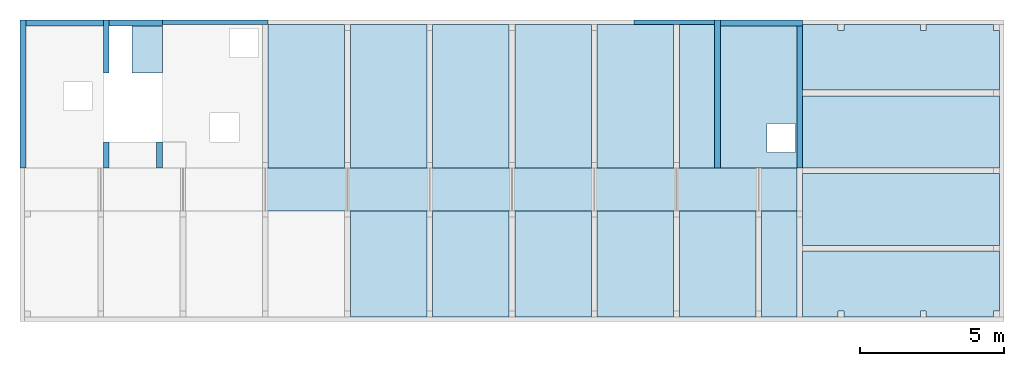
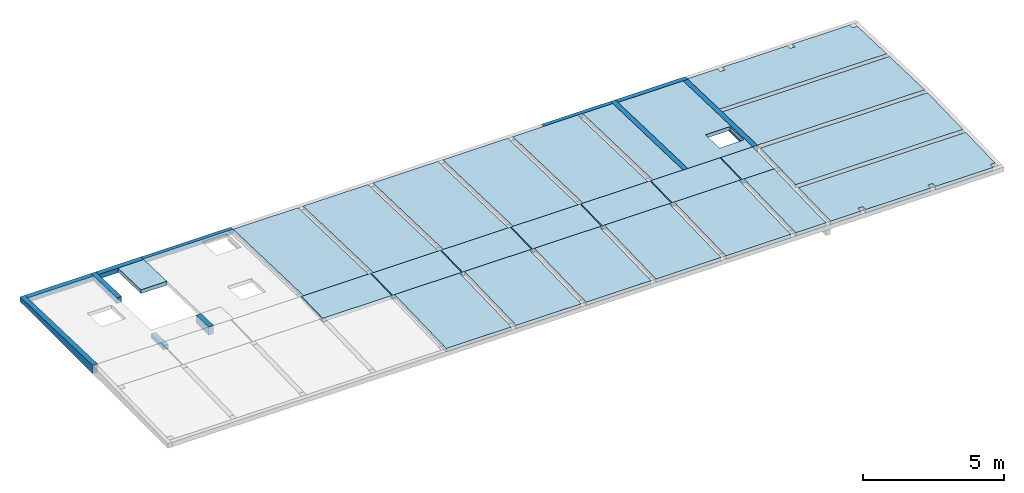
# One storey, part 3 of 5: 25 slabs, 10 walls, 1 opening.
"""IFC4 building model written with IfcOpenShell, lengths in metres."""

from ifc_helpers import new_model, entity, si_unit, converted_unit, derived_unit, frame, frame_2d, origin, origin_with_axes, origin_2d_with_axis, place, context, subcontext, project, spatial, polyline, rectangle, outline, extrude, clip, halfspace, bounded_halfspace, material, element, save


model = new_model("IFC4")

# Units and contexts
model_context = context("Model", 3, precision=1e-05, world=origin())
plan_context = context("Plan", 2, precision=1e-05, world=origin())
body_context = subcontext(model_context, "Body", "Model", "MODEL_VIEW")
ifc_project = project(units=[si_unit("LENGTHUNIT", "METRE"), si_unit("AREAUNIT", "SQUARE_METRE"), si_unit("VOLUMEUNIT", "CUBIC_METRE"), si_unit("MASSUNIT", "GRAM", prefix="KILO"), converted_unit("PLANEANGLEUNIT", "DEGREE", entity("IfcPlaneAngleMeasure", 0.0174532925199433), si_unit("PLANEANGLEUNIT", "RADIAN"), dimensions=[0, 0, 0, 0, 0, 0, 0]), derived_unit("THERMALTRANSMITTANCEUNIT", [(si_unit("POWERUNIT", "WATT"), 1), (si_unit("THERMODYNAMICTEMPERATUREUNIT", "KELVIN"), -1), (si_unit("LENGTHUNIT", "METRE"), -2)]), derived_unit("VOLUMETRICFLOWRATEUNIT", [(si_unit("LENGTHUNIT", "METRE"), 3), (converted_unit("TIMEUNIT", "hour", entity("IfcTimeMeasure", 3600.0), si_unit("TIMEUNIT", "SECOND"), dimensions=[0, 0, 1, 0, 0, 0, 0]), -1), (si_unit("LENGTHUNIT", "METRE"), -1)])], contexts=[model_context, plan_context])

# Site, building, storey
site_placement = place(None, origin())
site = spatial("IfcSite", under=ifc_project, at=site_placement, Name="Site", CompositionType="ELEMENT")
building_placement = place(site_placement, origin())
building = spatial("IfcBuilding", under=site, at=building_placement, Name="Admin", CompositionType="ELEMENT")
storey_placement = place(building_placement, frame((0.0, 0.0, 9.64)))
storey = spatial("IfcBuildingStorey", under=building, at=storey_placement, Name="03-Toiture", CompositionType="ELEMENT", Elevation=9.64)

# Slabs
ifc_material_1 = material(Name="CLT")
slab_1_placement = place(storey_placement, frame((46.8498006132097, 15.699449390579, -0.00897978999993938)))
element("IfcSlab", 1, at=slab_1_placement, inside=storey, material=ifc_material_1, Name="CLT ép. 16 cm", PredefinedType="FLOOR", context=body_context, shape_type="SweptSolid", body=[
    extrude(rectangle(XDim=1.20419660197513e-05, YDim=2.8199999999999, at=frame_2d((0.0, -1.81898940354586e-15), x_axis=(0.0, 1.0))), frame((1.40999999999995, 1.49999398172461, 0.0434799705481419), z_axis=(0.0, 0.0299865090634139, 0.999550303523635), x_axis=(1.0, 0.0, 0.0)), (0.0, -0.0299865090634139, 0.999550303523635), 0.16),
    extrude(rectangle(XDim=2.8199999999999, YDim=1.50061801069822, at=frame_2d((0.0, 9.09494701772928e-16), x_axis=(-1.0, 0.0))), frame((1.40999999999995, 0.749993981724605, 0.0217400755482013), z_axis=(0.0, -0.028974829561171, 0.999580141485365), x_axis=(-1.0, 0.0, 0.0)), (0.0, -0.028974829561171, 0.999580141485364), 0.16),
])
ifc_material_2 = material(Name="CLT")
slab_2_placement = place(storey_placement, frame((49.7098006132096, 15.699449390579, -0.0089797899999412)))
element("IfcSlab", 2, at=slab_2_placement, inside=storey, material=ifc_material_2, Name="CLT ép. 16 cm", PredefinedType="FLOOR", context=body_context, shape_type="SweptSolid", body=[
    extrude(rectangle(XDim=1.3100004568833, YDim=1.20419660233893e-05, at=frame_2d((0.0, -3.63797880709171e-15), x_axis=(-1.0, 0.0))), frame((0.655000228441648, 1.49999398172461, 0.0434799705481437), z_axis=(0.0, 0.0299865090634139, 0.999550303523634), x_axis=(1.0, 0.0, 0.0)), (0.0, -0.0299865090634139, 0.999550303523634), 0.16),
    extrude(rectangle(XDim=1.3100004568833, YDim=1.50061801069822, at=frame_2d((-7.27595761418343e-15, 9.09494701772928e-16), x_axis=(-1.0, 0.0))), frame((0.655000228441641, 0.749993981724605, 0.0217400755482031), z_axis=(0.0, -0.028974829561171, 0.999580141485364), x_axis=(-1.0, 0.0, 0.0)), (0.0, -0.028974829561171, 0.999580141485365), 0.16),
])
ifc_material_3 = material(Name="CLT")
slab_3_placement = place(storey_placement, frame((41.1298006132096, 15.699449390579, -0.00897978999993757)))
element("IfcSlab", 3, at=slab_3_placement, inside=storey, material=ifc_material_3, Name="CLT ép. 16 cm", PredefinedType="FLOOR", context=body_context, shape_type="SweptSolid", body=[
    extrude(rectangle(XDim=1.20419660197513e-05, YDim=2.82, at=frame_2d((0.0, -1.81898940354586e-15), x_axis=(0.0, 1.0))), frame((1.41, 1.49999398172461, 0.04347997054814), z_axis=(0.0, 0.0299865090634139, 0.999550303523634), x_axis=(1.0, 0.0, 0.0)), (0.0, -0.0299865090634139, 0.999550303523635), 0.16),
    extrude(rectangle(XDim=2.82, YDim=1.50061801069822, at=frame_2d((0.0, 9.09494701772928e-16), x_axis=(-1.0, 0.0))), frame((1.41, 0.749993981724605, 0.0217400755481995), z_axis=(0.0, -0.028974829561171, 0.999580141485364), x_axis=(-1.0, 0.0, 0.0)), (0.0, -0.028974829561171, 0.999580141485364), 0.16),
])
ifc_material_4 = material(Name="CLT")
slab_4_placement = place(storey_placement, frame((43.9898006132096, 15.699449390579, -0.0089797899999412)))
element("IfcSlab", 4, at=slab_4_placement, inside=storey, material=ifc_material_4, Name="CLT ép. 16 cm", PredefinedType="FLOOR", context=body_context, shape_type="SweptSolid", body=[
    extrude(rectangle(XDim=1.20419660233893e-05, YDim=2.82000000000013, at=frame_2d((-7.27595761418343e-15, -3.63797880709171e-15), x_axis=(0.0, 1.0))), frame((1.41000000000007, 1.49999398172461, 0.0434799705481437), z_axis=(0.0, 0.0299865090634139, 0.999550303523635), x_axis=(1.0, 0.0, 0.0)), (0.0, -0.0299865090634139, 0.999550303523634), 0.16),
    extrude(rectangle(XDim=2.82000000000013, YDim=1.50061801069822, at=frame_2d((7.27595761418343e-15, 9.09494701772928e-16), x_axis=(-1.0, 0.0))), frame((1.41000000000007, 0.749993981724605, 0.0217400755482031), z_axis=(0.0, -0.028974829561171, 0.999580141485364), x_axis=(-1.0, 0.0, 0.0)), (0.0, -0.028974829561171, 0.999580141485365), 0.16),
])
ifc_material_5 = material(Name="CLT")
slab_5_placement = place(storey_placement, frame((46.9298006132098, 17.199449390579, -0.115200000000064), z_axis=(0.0, 0.0299865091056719, 0.999550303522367), x_axis=(1.0, 0.0, 0.0)))
element("IfcSlab", 5, at=slab_5_placement, inside=storey, material=ifc_material_5, Name="CLT ép. 16 cm", PredefinedType="FLOOR", context=body_context, shape_type="SweptSolid", body=[
    extrude(rectangle(XDim=4.99224499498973, YDim=1.23000045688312, at=frame_2d((0.0, 0.0), x_axis=(0.0, -1.0))), frame((0.61500022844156, 2.49163351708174, 0.149632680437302), z_axis=(0.0, 0.0, 1.0), x_axis=(1.0, 0.0, 0.0)), (0.0, -0.0299865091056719, 0.999550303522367), 0.16),
])
ifc_material_6 = material(Name="CLT")
slab_6_placement = place(storey_placement, frame((49.7898006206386, 12.029449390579, -0.115362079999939), z_axis=(0.0, -0.0289748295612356, 0.999580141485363), x_axis=(-1.0, 0.0, 0.0)))
element("IfcSlab", 6, at=slab_6_placement, inside=storey, material=ifc_material_6, Name="CLT ép. 16 cm", PredefinedType="FLOOR", context=body_context, shape_type="SweptSolid", body=[
    extrude(rectangle(XDim=3.67154152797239, YDim=1.23000045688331, at=frame_2d((0.0, 9.09494701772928e-16), x_axis=(1.20392318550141e-07, -0.999999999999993))), frame((-0.615000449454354, -1.83577076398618, -1.36424205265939e-15), z_axis=(0.0, 0.0, 1.0), x_axis=(1.0, 0.0, 0.0)), (0.0, -0.0289748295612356, 0.999580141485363), 0.16),
])
ifc_material_7 = material(Name="CLT")
slab_7_placement = place(storey_placement, frame((38.2698006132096, 15.699449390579, -0.0089797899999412)))
element("IfcSlab", 7, at=slab_7_placement, inside=storey, material=ifc_material_7, Name="CLT ép. 16 cm", PredefinedType="FLOOR", context=body_context, shape_type="SweptSolid", body=[
    extrude(rectangle(XDim=1.20419660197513e-05, YDim=2.81999999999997, at=frame_2d((0.0, -1.81898940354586e-15), x_axis=(0.0, 1.0))), frame((1.40999999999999, 1.49999398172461, 0.0434799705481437), z_axis=(0.0, 0.0299865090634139, 0.999550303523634), x_axis=(1.0, 0.0, 0.0)), (0.0, -0.0299865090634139, 0.999550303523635), 0.16),
    extrude(rectangle(XDim=2.81999999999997, YDim=1.50061801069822, at=frame_2d((0.0, 9.09494701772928e-16), x_axis=(-1.0, 0.0))), frame((1.40999999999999, 0.749993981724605, 0.0217400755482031), z_axis=(0.0, -0.028974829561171, 0.999580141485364), x_axis=(-1.0, 0.0, 0.0)), (0.0, -0.028974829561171, 0.999580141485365), 0.16),
])
ifc_material_8 = material(Name="CLT")
slab_8_placement = place(storey_placement, frame((32.5498006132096, 15.699449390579, -0.0089797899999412)))
element("IfcSlab", 8, at=slab_8_placement, inside=storey, material=ifc_material_8, Name="CLT ép. 16 cm", PredefinedType="FLOOR", context=body_context, shape_type="SweptSolid", body=[
    extrude(rectangle(XDim=1.20419660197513e-05, YDim=2.82000000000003, at=frame_2d((0.0, -1.81898940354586e-15), x_axis=(0.0, 1.0))), frame((1.41000000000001, 1.49999398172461, 0.0434799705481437), z_axis=(0.0, 0.0299865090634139, 0.999550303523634), x_axis=(1.0, 0.0, 0.0)), (0.0, -0.0299865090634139, 0.999550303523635), 0.16),
    extrude(rectangle(XDim=2.82000000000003, YDim=1.50061801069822, at=frame_2d((0.0, 9.09494701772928e-16), x_axis=(-1.0, 0.0))), frame((1.41000000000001, 0.749993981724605, 0.0217400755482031), z_axis=(0.0, -0.028974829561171, 0.999580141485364), x_axis=(-1.0, 0.0, 0.0)), (0.0, -0.028974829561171, 0.999580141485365), 0.16),
])
ifc_material_9 = material(Name="CLT")
slab_9_placement = place(storey_placement, frame((35.4098006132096, 15.699449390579, -0.0089797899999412)))
element("IfcSlab", 9, at=slab_9_placement, inside=storey, material=ifc_material_9, Name="CLT ép. 16 cm", PredefinedType="FLOOR", context=body_context, shape_type="SweptSolid", body=[
    extrude(rectangle(XDim=1.20419660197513e-05, YDim=2.82000000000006, at=frame_2d((0.0, -1.81898940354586e-15), x_axis=(0.0, 1.0))), frame((1.41000000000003, 1.49999398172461, 0.0434799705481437), z_axis=(0.0, 0.0299865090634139, 0.999550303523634), x_axis=(1.0, 0.0, 0.0)), (0.0, -0.0299865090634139, 0.999550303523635), 0.16),
    extrude(rectangle(XDim=2.82000000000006, YDim=1.50061801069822, at=frame_2d((0.0, -1.81898940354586e-15), x_axis=(-1.0, 0.0))), frame((1.41000000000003, 0.749993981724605, 0.0217400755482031), z_axis=(0.0, -0.028974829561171, 0.999580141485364), x_axis=(-1.0, 0.0, 0.0)), (0.0, -0.028974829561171, 0.999580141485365), 0.16),
])
ifc_material_10 = material(Name="CLT")
slab_10_placement = place(storey_placement, frame((32.6298006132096, 17.199449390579, -0.115200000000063), z_axis=(0.0, 0.0299865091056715, 0.999550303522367), x_axis=(1.0, 0.0, 0.0)))
element("IfcSlab", 10, at=slab_10_placement, inside=storey, material=ifc_material_10, Name="CLT ép. 16 cm", PredefinedType="FLOOR", context=body_context, shape_type="SweptSolid", body=[
    extrude(rectangle(XDim=2.65999999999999, YDim=4.99224499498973, at=frame_2d((0.0, 0.0), x_axis=(-1.0, 0.0))), frame((1.32999999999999, 2.49163351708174, 0.149632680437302), z_axis=(0.0, 0.0, 1.0), x_axis=(1.0, 0.0, 0.0)), (0.0, -0.0299865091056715, 0.999550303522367), 0.16),
])
ifc_material_11 = material(Name="CLT")
slab_11_placement = place(storey_placement, frame((35.4898006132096, 17.199449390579, -0.115200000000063), z_axis=(3.41830032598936e-16, 0.0299865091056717, 0.999550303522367), x_axis=(1.0, -1.13994607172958e-14, 0.0)))
element("IfcSlab", 11, at=slab_11_placement, inside=storey, material=ifc_material_11, Name="CLT ép. 16 cm", PredefinedType="FLOOR", context=body_context, shape_type="SweptSolid", body=[
    extrude(rectangle(XDim=2.65999999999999, YDim=4.99224499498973, at=frame_2d((7.27595761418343e-15, -1.81898940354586e-15), x_axis=(-1.0, -1.09412896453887e-14))), frame((1.32999999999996, 2.49163351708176, 0.149632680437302), z_axis=(-4.93038065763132e-32, 0.0, 1.0), x_axis=(1.0, 0.0, -4.93038065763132e-32)), (0.0, -0.0299865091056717, 0.999550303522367), 0.16),
])
ifc_material_12 = material(Name="CLT")
slab_12_placement = place(storey_placement, frame((38.3498006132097, 17.199449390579, -0.115200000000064), z_axis=(0.0, 0.0299865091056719, 0.999550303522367), x_axis=(1.0, 0.0, 0.0)))
element("IfcSlab", 12, at=slab_12_placement, inside=storey, material=ifc_material_12, Name="CLT ép. 16 cm", PredefinedType="FLOOR", context=body_context, shape_type="SweptSolid", body=[
    extrude(rectangle(XDim=2.65999999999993, YDim=4.99224499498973, at=frame_2d((0.0, 0.0), x_axis=(-1.0, 0.0))), frame((1.32999999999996, 2.49163351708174, 0.149632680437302), z_axis=(0.0, 0.0, 1.0), x_axis=(1.0, 0.0, 0.0)), (0.0, -0.0299865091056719, 0.999550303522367), 0.16),
])
ifc_material_13 = material(Name="CLT")
slab_13_placement = place(storey_placement, frame((41.2098006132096, 12.029449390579, -0.115362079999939), z_axis=(0.0, -0.0289748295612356, 0.999580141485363), x_axis=(-1.0, 0.0, 0.0)))
element("IfcSlab", 13, at=slab_13_placement, inside=storey, material=ifc_material_13, Name="CLT ép. 16 cm", PredefinedType="FLOOR", context=body_context, shape_type="SweptSolid", body=[
    extrude(rectangle(XDim=3.67154152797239, YDim=2.65999999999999, at=frame_2d((-7.27595761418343e-15, 9.09494701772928e-16), x_axis=(-1.24439120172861e-07, 0.999999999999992))), frame((-1.33000022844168, -1.83577076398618, -1.30739863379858e-15), z_axis=(0.0, 0.0, 1.0), x_axis=(1.0, 0.0, 0.0)), (0.0, -0.0289748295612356, 0.999580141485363), 0.16),
])
ifc_material_14 = material(Name="CLT")
slab_14_placement = place(storey_placement, frame((38.3498006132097, 12.029449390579, -0.115362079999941), z_axis=(0.0, -0.0289748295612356, 0.999580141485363), x_axis=(-1.0, 0.0, 0.0)))
element("IfcSlab", 14, at=slab_14_placement, inside=storey, material=ifc_material_14, Name="CLT ép. 16 cm", PredefinedType="FLOOR", context=body_context, shape_type="SweptSolid", body=[
    extrude(rectangle(XDim=3.67154152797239, YDim=2.65999999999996, at=frame_2d((0.0, 9.09494701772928e-16), x_axis=(-1.24439120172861e-07, 0.999999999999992))), frame((-1.33000022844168, -1.83577076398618, 5.11590769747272e-16), z_axis=(0.0, 0.0, 1.0), x_axis=(1.0, 0.0, 0.0)), (0.0, -0.0289748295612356, 0.999580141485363), 0.16),
])
ifc_material_15 = material(Name="CLT")
slab_15_placement = place(storey_placement, frame((44.0698006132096, 12.029449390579, -0.115362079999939), z_axis=(0.0, -0.0289748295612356, 0.999580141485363), x_axis=(-1.0, 0.0, 0.0)))
element("IfcSlab", 15, at=slab_15_placement, inside=storey, material=ifc_material_15, Name="CLT ép. 16 cm", PredefinedType="FLOOR", context=body_context, shape_type="SweptSolid", body=[
    extrude(rectangle(XDim=3.67154152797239, YDim=2.66000000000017, at=frame_2d((0.0, 9.09494701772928e-16), x_axis=(-1.24439120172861e-07, 0.999999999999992))), frame((-1.33000022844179, -1.83577076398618, -1.36424205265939e-15), z_axis=(0.0, 0.0, 1.0), x_axis=(1.0, 0.0, 0.0)), (0.0, -0.0289748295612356, 0.999580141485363), 0.16),
])
ifc_material_16 = material(Name="CLT")
slab_16_placement = place(storey_placement, frame((46.9298006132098, 12.029449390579, -0.115362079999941), z_axis=(0.0, -0.0289748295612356, 0.999580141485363), x_axis=(-1.0, 0.0, 0.0)))
element("IfcSlab", 16, at=slab_16_placement, inside=storey, material=ifc_material_16, Name="CLT ép. 16 cm", PredefinedType="FLOOR", context=body_context, shape_type="SweptSolid", body=[
    extrude(rectangle(XDim=3.67154152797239, YDim=2.65999999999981, at=frame_2d((0.0, 9.09494701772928e-16), x_axis=(-1.24439120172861e-07, 0.999999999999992))), frame((-1.3300002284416, -1.83577076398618, 5.11590769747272e-16), z_axis=(0.0, 0.0, 1.0), x_axis=(1.0, 0.0, 0.0)), (0.0, -0.0289748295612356, 0.999580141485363), 0.16),
])
ifc_material_17 = material(Name="CLT")
slab_17_placement = place(storey_placement, frame((35.4898006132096, 12.029449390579, -0.115362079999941), z_axis=(0.0, -0.0289748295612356, 0.999580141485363), x_axis=(-1.0, 0.0, 0.0)))
element("IfcSlab", 17, at=slab_17_placement, inside=storey, material=ifc_material_17, Name="CLT ép. 16 cm", PredefinedType="FLOOR", context=body_context, shape_type="SweptSolid", body=[
    extrude(rectangle(XDim=3.67154152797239, YDim=2.66000000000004, at=frame_2d((-7.27595761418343e-15, 9.09494701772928e-16), x_axis=(-1.24439120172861e-07, 0.999999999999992))), frame((-1.33000022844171, -1.83577076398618, 4.54747350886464e-16), z_axis=(0.0, 0.0, 1.0), x_axis=(1.0, 0.0, 0.0)), (0.0, -0.0289748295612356, 0.999580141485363), 0.16),
])
ifc_material_18 = material(Name="CLT")
slab_18_placement = place(storey_placement, frame((44.0698006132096, 17.199449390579, -0.115200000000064), z_axis=(0.0, 0.0299865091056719, 0.999550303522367), x_axis=(1.0, 0.0, 0.0)))
element("IfcSlab", 18, at=slab_18_placement, inside=storey, material=ifc_material_18, Name="CLT ép. 16 cm", PredefinedType="FLOOR", context=body_context, shape_type="SweptSolid", body=[
    extrude(rectangle(XDim=2.66000000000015, YDim=4.99224499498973, at=frame_2d((0.0, 0.0), x_axis=(-1.0, 0.0))), frame((1.33000000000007, 2.49163351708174, 0.149632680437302), z_axis=(0.0, 0.0, 1.0), x_axis=(1.0, 0.0, 0.0)), (0.0, -0.0299865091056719, 0.999550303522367), 0.16),
])
ifc_material_19 = material(Name="CLT")
slab_19_placement = place(storey_placement, frame((41.2098006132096, 17.199449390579, -0.115200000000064), z_axis=(0.0, 0.0299865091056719, 0.999550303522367), x_axis=(1.0, 0.0, 0.0)))
element("IfcSlab", 19, at=slab_19_placement, inside=storey, material=ifc_material_19, Name="CLT ép. 16 cm", PredefinedType="FLOOR", context=body_context, shape_type="SweptSolid", body=[
    extrude(rectangle(XDim=2.65999999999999, YDim=4.99224499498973, at=frame_2d((7.27595761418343e-15, 0.0), x_axis=(-1.0, 0.0))), frame((1.32999999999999, 2.49163351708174, 0.149632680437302), z_axis=(0.0, 0.0, 1.0), x_axis=(1.0, 0.0, 0.0)), (0.0, -0.0299865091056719, 0.999550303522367), 0.16),
])
ifc_material_20 = material(Name="CLT")
slab_20_placement = place(storey_placement, frame((51.2198015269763, 14.509449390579, -0.0434743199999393), z_axis=(0.0, -0.028974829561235, 0.999580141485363), x_axis=(-1.0, 0.0, 0.0)))
element("IfcSlab", 20, at=slab_20_placement, inside=storey, material=ifc_material_20, Name="CLT ép. 16 cm", PredefinedType="FLOOR", context=body_context, shape_type="SweptSolid", body=[
    extrude(rectangle(XDim=6.83999908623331, YDim=2.50105008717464, at=frame_2d((-7.27595761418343e-15, 0.0), x_axis=(1.0, 0.0))), frame((-3.41999954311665, -1.25052504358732, -2.33058017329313e-15), z_axis=(0.0, 0.0, 1.0), x_axis=(1.0, 0.0, 0.0)), (0.0, -0.028974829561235, 0.999580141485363), 0.16),
])
ifc_material_21 = material(Name="CLT")
slab_21_placement = place(storey_placement, frame((51.2198015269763, 12.029449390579, -0.115362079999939), z_axis=(-1.01664317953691e-16, -0.0289748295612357, 0.999580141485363), x_axis=(-1.0, 3.50871150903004e-15, 0.0)))
element("IfcSlab", 21, at=slab_21_placement, inside=storey, material=ifc_material_21, Name="CLT ép. 16 cm", PredefinedType="FLOOR", context=body_context, shape_type="SweptSolid", body=[
    extrude(outline(polyline([(3.50285635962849, -1.86935629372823), (3.50285635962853, 0.411601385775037), (2.27285727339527, 0.411601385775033), (2.27285727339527, 0.211517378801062), (2.07285727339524, 0.21151737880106), (2.07285727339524, 0.411601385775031), (-0.587142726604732, 0.411601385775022), (-0.587142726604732, 0.211517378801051), (-0.787142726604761, 0.211517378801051), (-0.787142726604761, 0.411601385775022), (-3.13714272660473, 0.411601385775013), (-3.13714272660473, 0.211517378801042), (-3.33714272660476, 0.211517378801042), (-3.33714272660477, -1.86935629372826), (3.50285635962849, -1.86935629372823)])), frame((-3.50285635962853, -0.411601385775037, 8.5265128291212e-16), z_axis=(0.0, 0.0, 1.0), x_axis=(1.0, 0.0, 0.0)), (0.0, -0.0289748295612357, 0.999580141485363), 0.16),
])
ifc_material_22 = material(Name="CLT")
slab_22_placement = place(storey_placement, frame((51.2198010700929, 19.909449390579, -0.115200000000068), z_axis=(8.92856191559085e-18, 0.0299865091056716, 0.999550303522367), x_axis=(1.0, -2.97752628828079e-16, 0.0)))
element("IfcSlab", 22, at=slab_22_placement, inside=storey, material=ifc_material_22, Name="CLT ép. 16 cm", PredefinedType="FLOOR", context=body_context, shape_type="SweptSolid", body=[
    extrude(outline(polyline([(-3.50285609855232, -1.86941209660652), (3.33714298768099, -1.86941209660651), (3.33714253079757, 0.211523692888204), (3.13714253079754, 0.211523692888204), (3.13714253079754, 0.411613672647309), (0.787142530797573, 0.411613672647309), (0.787142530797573, 0.211523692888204), (0.587142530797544, 0.211523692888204), (0.587142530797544, 0.411613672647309), (-2.072857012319, 0.411613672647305), (-2.072857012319, 0.2115236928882), (-2.27285701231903, 0.2115236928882), (-2.27285701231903, 0.411613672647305), (-3.50285655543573, 0.411613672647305), (-3.50285609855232, -1.86941209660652)])), frame((3.50285655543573, 1.86736101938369, 0.0683692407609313), z_axis=(-1.54074395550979e-33, 0.0, 1.0), x_axis=(1.0, 0.0, -1.54074395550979e-33)), (0.0, -0.0299865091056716, 0.999550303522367), 0.16),
])
ifc_material_23 = material(Name="CLT")
slab_23_placement = place(storey_placement, frame((51.2198015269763, 17.209449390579, -0.0408000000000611), z_axis=(0.0, 0.0299865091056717, 0.999550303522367), x_axis=(1.0, 0.0, 0.0)))
element("IfcSlab", 23, at=slab_23_placement, inside=storey, material=ifc_material_23, Name="CLT ép. 16 cm", PredefinedType="FLOOR", context=body_context, shape_type="SweptSolid", body=[
    extrude(rectangle(XDim=2.50112474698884, YDim=6.83999908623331, at=frame_2d((7.27595761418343e-15, 0.0), x_axis=(0.0, -1.0))), frame((3.41999954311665, 1.2483133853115, 0.074966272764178), z_axis=(0.0, 0.0, 1.0), x_axis=(1.0, 0.0, 0.0)), (0.0, -0.0299865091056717, 0.999550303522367), 0.16),
])

# Slab, opening
ifc_material_24 = material(Name="C30/37")
slab_24_placement = place(storey_placement, frame((48.35980059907, 17.199449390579, -0.114000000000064), z_axis=(0.0, 0.0299865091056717, 0.999550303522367), x_axis=(1.0, 0.0, 0.0)))
slab_24 = element("IfcSlab", 24, at=slab_24_placement, inside=storey, material=ifc_material_24, Name="Dalle BA R+2", PredefinedType="FLOOR", context=body_context, shape_type="SweptSolid", body=[
    extrude(rectangle(XDim=2.65999999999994, YDim=4.95222699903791, at=frame_2d((1.45519152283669e-14, -1.81898940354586e-15), x_axis=(1.0, 0.0))), frame((1.33000000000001, 2.47166050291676, 0.148433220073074), z_axis=(0.0, 0.0, 1.0), x_axis=(1.0, 0.0, 0.0)), (0.0, -0.0299865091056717, 0.999550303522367), 0.16),
])
opening_placement = place(slab_24_placement, frame((1.61, 0.546694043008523, 0.118446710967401)))
element("IfcOpeningElement", 25, at=opening_placement, cuts=slab_24, Name="Trémie dans dalle", ObjectType="Opening", context=body_context, shape_type="SweptSolid", body=[
    extrude(rectangle(XDim=1.0, YDim=1.00044989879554, at=origin_2d_with_axis()), frame((0.5, 0.499325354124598, 0.0299865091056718), z_axis=(0.0, -7.3899220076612e-16, 1.0), x_axis=(1.0, 0.0, 0.0)), (0.0, -0.029986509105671, 0.999550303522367), 0.16),
])

# Slab
ifc_material_25 = material(Name="C30/37")
slab_25_placement = place(storey_placement, frame((27.8901090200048, 20.5094421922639, -0.114000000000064), z_axis=(8.93843733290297e-16, 0.0299865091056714, 0.999550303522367), x_axis=(1.0, -2.98081957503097e-14, 0.0)))
element("IfcSlab", 26, at=slab_25_placement, inside=storey, material=ifc_material_25, Name="Dalle BA R+2", PredefinedType="FLOOR", context=body_context, shape_type="SweptSolid", body=[
    extrude(rectangle(XDim=1.05972053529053, YDim=1.64073783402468, at=frame_2d((0.0, -1.81898940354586e-15), x_axis=(-0.999999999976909, 6.79571014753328e-06))), frame((0.529860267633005, 0.818897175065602, 0.0491780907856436), z_axis=(0.0, 0.0, 1.0), x_axis=(1.0, 0.0, 0.0)), (0.0, -0.0299865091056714, 0.999550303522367), 0.160000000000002),
])

# Walls
ifc_material_26 = material(Name="CLT")
wall_1_placement = place(storey_placement, frame((48.1598010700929, 22.349449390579, -0.16), z_axis=(0.0, 0.0, 1.0), x_axis=(-1.0, 0.0, 0.0)))
element("IfcWall", 27, at=wall_1_placement, inside=storey, material=ifc_material_26, Name="Panneau CLT R+2", context=body_context, shape_type="Clipping", body=[
    clip(extrude(rectangle(XDim=2.80999999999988, YDim=0.16, at=frame_2d((1.40499999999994, 0.08), x_axis=(1.0, 0.0))), origin_with_axes(), (0.0, 0.0, 1.0), 0.204799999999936), halfspace(frame((1.40499999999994, 0.08, 0.202399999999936), z_axis=(0.0, 0.0299865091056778, -0.999550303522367), x_axis=(0.0, -0.999550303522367, -0.0299865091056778)), True)),
])
ifc_material_27 = material(Name="CLT")
wall_2_placement = place(storey_placement, frame((32.6298006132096, 22.349449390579, -0.16), z_axis=(0.0, 0.0, 1.0), x_axis=(-0.999999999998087, -1.95607927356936e-06, 0.0)))
element("IfcWall", 28, at=wall_2_placement, inside=storey, material=ifc_material_27, Name="Panneau CLT R+2", context=body_context, shape_type="Clipping", body=[
    clip(extrude(rectangle(XDim=3.6799710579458, YDim=0.16, at=frame_2d((1.8399855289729, 0.08), x_axis=(1.0, 0.0))), origin_with_axes(), (0.0, 0.0, 1.0), 0.20480021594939), halfspace(frame((1.83998568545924, 0.079999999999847, 0.202400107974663), z_axis=(5.86559889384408e-08, 0.0299865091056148, -0.999550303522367), x_axis=(-1.95519963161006e-06, -0.999550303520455, -0.0299865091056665)), True)),
])
ifc_material_28 = material(Name="C30/37")
wall_3_placement = place(storey_placement, frame((28.9498295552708, 22.3494421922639, -0.16), z_axis=(0.0, 0.0, 1.0), x_axis=(-0.999999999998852, 1.51542552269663e-06, 0.0)))
element("IfcWall", 29, at=wall_3_placement, inside=storey, material=ifc_material_28, Name="Voile BA Axe 2.6", context=body_context, shape_type="Clipping", body=[
    clip(clip(extrude(outline(polyline([(-2.70002865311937, -0.199999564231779), (3.03095260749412e-07, -0.200006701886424), (1.01562100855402e-11, -6.70188665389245e-06), (-2.70002895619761, -4.09169279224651e-06), (-2.70002865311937, -0.199999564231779)])), frame((4.75002865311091, 0.200006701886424, 0.0), z_axis=(0.0, 0.0, 1.0), x_axis=(1.0, 0.0, 0.0)), (0.0, 0.0, 1.0), 0.206000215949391), bounded_halfspace(frame((3.40001432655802, 0.100002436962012, 0.203000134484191), z_axis=(-4.54423213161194e-08, 0.0299865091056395, -0.999550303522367), x_axis=(0.999999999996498, -2.64354744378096e-06, -1.24769188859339e-07)), True, origin_with_axes(), polyline([(2.04999999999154, 7.13765464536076e-06), (4.75002895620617, 0.0), (4.75002865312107, 0.19999999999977), (2.0499996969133, 0.200002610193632), (2.04999999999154, 7.13765464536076e-06)]))), bounded_halfspace(frame((0.951943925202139, 0.120000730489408, 0.203600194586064), z_axis=(-4.54423211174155e-08, 0.0299865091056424, -0.999550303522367), x_axis=(-0.999999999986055, 5.27722864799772e-06, 2.03779625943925e-07)), True, origin_with_axes(), polyline([(1.05972023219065, 0.199994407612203), (-3.03085104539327e-07, 0.19999999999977), (0.0, 0.0), (1.84999999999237, 6.44129809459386e-06), (1.84999969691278, 0.200002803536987), (1.05972023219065, 0.199994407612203)]))),
    clip(clip(extrude(outline(polyline([(0.0, 0.0), (-0.790279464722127, -8.39592478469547e-06), (-1.84999999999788, -2.80353721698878e-06), (-1.84999969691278, -0.200002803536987), (3.03079591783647e-07, -0.199996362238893), (0.0, 0.0)])), frame((1.84999969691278, 0.200002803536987, 0.0), z_axis=(0.0, 0.0, 1.0), x_axis=(1.0, 0.0, 0.0)), (0.0, 0.0, 1.0), 0.206000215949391), bounded_halfspace(frame((3.40001432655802, 0.100002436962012, 0.203000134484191), z_axis=(-4.54423213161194e-08, 0.0299865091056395, -0.999550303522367), x_axis=(0.999999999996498, -2.64354744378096e-06, -1.24769188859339e-07)), True, origin_with_axes(), polyline([(2.04999999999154, 7.13765464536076e-06), (4.75002895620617, 0.0), (4.75002865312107, 0.19999999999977), (2.0499996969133, 0.200002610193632), (2.04999999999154, 7.13765464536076e-06)]))), bounded_halfspace(frame((0.951943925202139, 0.120000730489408, 0.203600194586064), z_axis=(-4.54423211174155e-08, 0.0299865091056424, -0.999550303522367), x_axis=(-0.999999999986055, 5.27722864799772e-06, 2.03779625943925e-07)), True, origin_with_axes(), polyline([(1.05972023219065, 0.199994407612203), (-3.03085104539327e-07, 0.19999999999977), (0.0, 0.0), (1.84999999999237, 6.44129809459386e-06), (1.84999969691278, 0.200002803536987), (1.05972023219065, 0.199994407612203)]))),
])
ifc_material_29 = material(Name="C30/37")
wall_4_placement = place(storey_placement, frame((51.21980059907, 22.349449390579, -0.16), z_axis=(0.0, 0.0, 1.0), x_axis=(-1.0, 0.0, 0.0)))
element("IfcWall", 30, at=wall_4_placement, inside=storey, material=ifc_material_29, Name="Voile BA Esc. R+2", context=body_context, shape_type="Clipping", body=[
    clip(extrude(rectangle(XDim=2.86, YDim=0.2, at=frame_2d((1.43, 0.1), x_axis=(1.0, 0.0))), origin_with_axes(), (0.0, 0.0, 1.0), 0.205999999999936), halfspace(frame((1.43, 0.1, 0.202999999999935), z_axis=(0.0, 0.0299865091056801, -0.999550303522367), x_axis=(0.0, -0.999550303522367, -0.0299865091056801)), True)),
])
ifc_material_30 = material(Name="C30/37")
wall_5_placement = place(storey_placement, frame((48.15980059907, 22.349449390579, -0.16), z_axis=(0.0, 0.0, 1.0), x_axis=(0.0, -1.0, 0.0)))
element("IfcWall", 31, at=wall_5_placement, inside=storey, material=ifc_material_30, Name="Voile BA Esc. R+2", context=body_context, shape_type="Clipping", body=[
    clip(extrude(rectangle(XDim=5.15, YDim=0.2, at=frame_2d((2.575, 0.1), x_axis=(1.0, 0.0))), origin_with_axes(), (0.0, 0.0, 1.0), 0.35449999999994), halfspace(frame((2.575, 0.1, 0.277249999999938), z_axis=(0.0299865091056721, -2.82434393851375e-17, -0.999550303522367), x_axis=(-0.999550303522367, 0.0, -0.0299865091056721)), True)),
])
ifc_material_31 = material(Name="C30/37")
wall_6_placement = place(storey_placement, frame((51.21980059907, 17.199449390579, -0.16), z_axis=(0.0, 0.0, 1.0), x_axis=(0.0, 1.0, 0.0)))
element("IfcWall", 32, at=wall_6_placement, inside=storey, material=ifc_material_31, Name="Voile BA Esc. R+2", context=body_context, shape_type="Clipping", body=[
    clip(extrude(rectangle(XDim=4.95, YDim=0.2, at=frame_2d((2.475, 0.1), x_axis=(1.0, 0.0))), origin_with_axes(), (0.0, 0.0, 1.0), 0.35449999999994), halfspace(frame((2.475, 0.1, 0.280249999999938), z_axis=(-0.0299865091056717, 0.0, -0.999550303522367), x_axis=(0.999550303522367, 0.0, -0.0299865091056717)), True)),
])
ifc_material_32 = material(Name="C30/37")
wall_7_placement = place(storey_placement, frame((23.9998005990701, 22.349449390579, -0.16), z_axis=(0.0, 0.0, 1.0), x_axis=(0.0, -1.0, 0.0)))
element("IfcWall", 33, at=wall_7_placement, inside=storey, material=ifc_material_32, Name="Voile BA Esc. R+2", context=body_context, shape_type="Clipping", body=[
    clip(extrude(rectangle(XDim=5.1500000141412, YDim=0.2, at=frame_2d((2.5750000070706, 0.1), x_axis=(1.0, 0.0))), origin_with_axes(), (0.0, 0.0, 1.0), 0.354500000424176), halfspace(frame((2.5750000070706, 0.1, 0.277250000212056), z_axis=(0.0299865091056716, 0.0, -0.999550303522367), x_axis=(-0.999550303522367, 0.0, -0.0299865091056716)), True)),
])
ifc_material_33 = material(Name="C30/37")
wall_8_placement = place(storey_placement, frame((27.0998295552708, 20.5094421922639, -0.16), z_axis=(0.0, 0.0, 1.0), x_axis=(0.0, 1.0, 0.0)))
element("IfcWall", 34, at=wall_8_placement, inside=storey, material=ifc_material_33, Name="Voile BA Esc. R+2", context=body_context, shape_type="Clipping", body=[
    clip(extrude(rectangle(XDim=1.84, YDim=0.2, at=frame_2d((0.92, 0.1), x_axis=(1.0, 0.0))), origin_with_axes(), (0.0, 0.0, 1.0), 0.25520021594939), halfspace(frame((0.92, 0.1, 0.227600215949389), z_axis=(-0.0299865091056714, 0.0, -0.999550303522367), x_axis=(0.999550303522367, 0.0, -0.0299865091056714)), True)),
])
ifc_material_34 = material(Name="C30/37")
wall_9_placement = place(storey_placement, frame((28.9498300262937, 17.1994301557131, -0.16), z_axis=(0.0, 0.0, 1.0), x_axis=(-1.0309932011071e-06, 0.999999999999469, 0.0)))
element("IfcWall", 35, at=wall_9_placement, inside=storey, material=ifc_material_34, Name="Voile BA Asc. R+2", context=body_context, shape_type="Clipping", body=[
    clip(extrude(rectangle(XDim=0.900012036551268, YDim=0.2, at=frame_2d((0.450006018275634, 0.1), x_axis=(1.0, 0.0))), origin_with_axes(), (0.0, 0.0, 1.0), 0.354500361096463), halfspace(frame((0.450009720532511, 0.0999999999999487, 0.341000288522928), z_axis=(-0.0299865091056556, 3.09158870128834e-08, -0.999550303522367), x_axis=(-0.999550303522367, 6.97732802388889e-17, 0.0299865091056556)), True)),
])
ifc_material_35 = material(Name="C30/37")
wall_10_placement = place(storey_placement, frame((26.8998292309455, 18.0994421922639, -0.16), z_axis=(0.0, 0.0, 1.0), x_axis=(1.03100699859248e-06, -0.999999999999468, 0.0)))
element("IfcWall", 36, at=wall_10_placement, inside=storey, material=ifc_material_35, Name="Voile BA Asc. R+2", context=body_context, shape_type="Clipping", body=[
    clip(extrude(rectangle(XDim=0.899999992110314, YDim=0.2, at=frame_2d((0.449999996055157, 0.1), x_axis=(1.0, 0.0))), origin_with_axes(), (0.0, 0.0, 1.0), 0.194500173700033), halfspace(frame((0.449999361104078, 0.0999999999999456, 0.181000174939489), z_axis=(0.029986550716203, -3.09163641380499e-08, -0.99955030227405), x_axis=(1.78782362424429e-06, 0.999999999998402, 2.27044984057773e-08)), True)),
])

save(model, "model.ifc")
